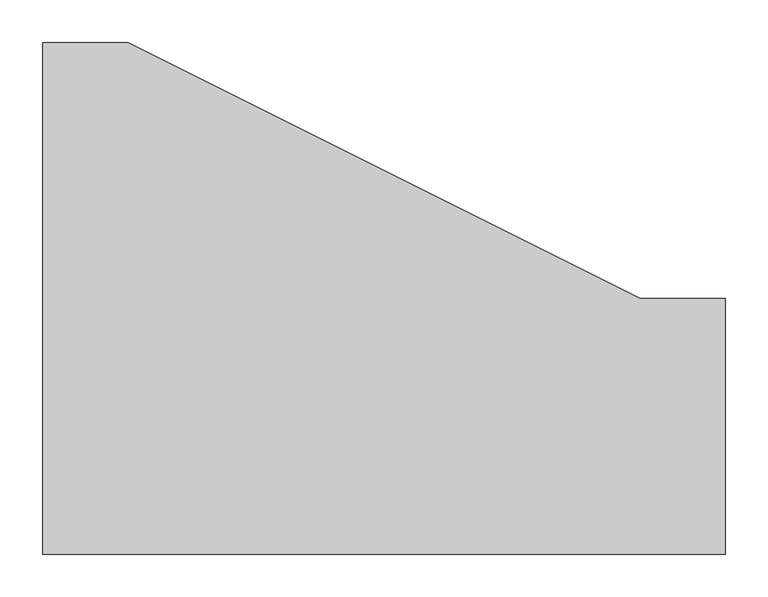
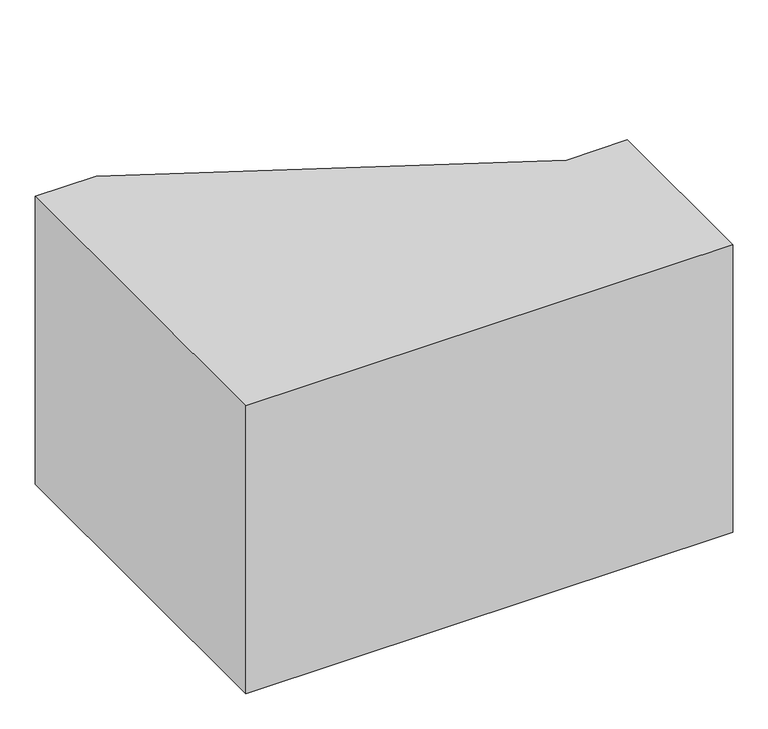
"""IFC4 building model written with IfcOpenShell, lengths in millimetres: duct fitting geometry, 2017_Reducción_Climaver_Reducción-Rectangular-a-una-cara-lateral-en-U : Reducción_En-U-a-cara-lateral_Climaver."""

from ifc_helpers import new_model, si_unit, frame, origin, place, context, project, spatial, polyline, outline, extrude, source, transform, mapped, element, save


def duct_fitting_c0f75f58(model_context):
    return source(origin(), model_context, "Body", "SweptSolid", [
        extrude(outline(polyline([(-400.0, -300.0), (-400.0, 300.0), (-300.0, 300.0), (300.0, 0.0), (400.0, 0.0), (400.0, -300.0), (-400.0, -300.0)])), frame((0.0, 0.0, -250.0), z_axis=(0.0, 0.0, 1.0), x_axis=(1.0, 0.0, 0.0)), (0.0, 0.0, 1.0), 500.0),
    ])


if __name__ == "__main__":
    model = new_model("IFC4")
    model_context = context("Model", 3, world=origin())
    ifc_project = project(units=[si_unit("LENGTHUNIT", "METRE", prefix="MILLI")], contexts=[model_context])
    site = spatial("IfcSite", under=ifc_project)
    building = spatial("IfcBuilding", under=site)
    placement = place(None, origin())
    duct_fitting_shape = duct_fitting_c0f75f58(model_context)
    element("IfcDuctFitting", 1, ObjectType="2017_Reducción_Climaver_Reducción-Rectangular-a-una-cara-lateral-en-U : Reducción_En-U-a-cara-lateral_Climaver", at=placement, inside=building, context=model_context, shape_type="MappedRepresentation", body=[
        mapped(duct_fitting_shape, transform((0.0, 0.0, 0.0), x_axis=(1.0, 0.0, 0.0), y_axis=(0.0, 1.0, 0.0), z_axis=(0.0, 0.0, 1.0))),
    ])
    save(model, "model.ifc")
